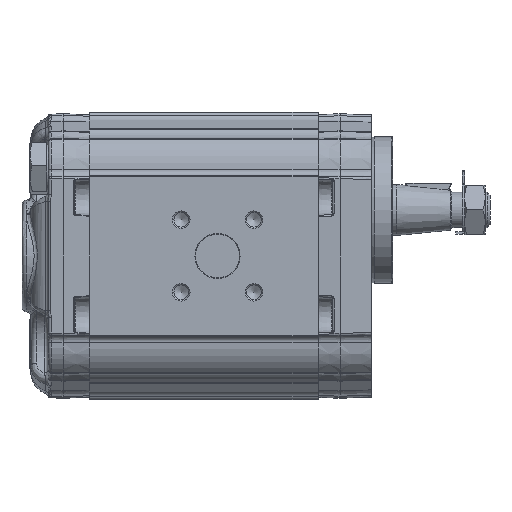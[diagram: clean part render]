
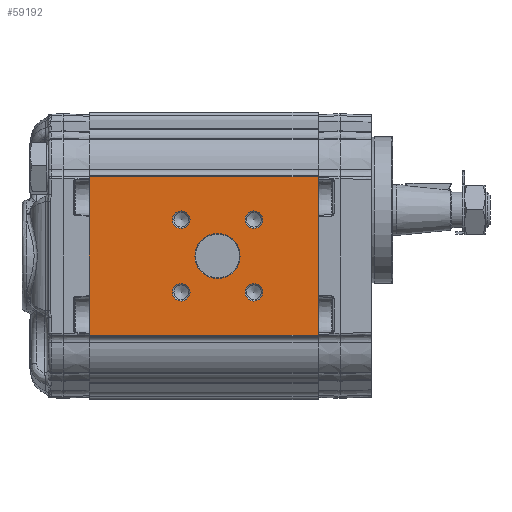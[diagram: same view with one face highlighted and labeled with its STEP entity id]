
A CAD part, left-side view. The second image highlights one B-rep face of the part: STEP entity #59192.
In plain terms, the highlighted planar face has unit normal (-1, 0, 0) as drawn and (1, 0, 0) by its records, which use the part's own axes.
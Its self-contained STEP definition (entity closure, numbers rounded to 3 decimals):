
#3905=PLANE('',#62928);
#5323=CIRCLE('',#62929,7.7);
#5324=CIRCLE('',#62930,3.);
#5325=CIRCLE('',#62931,3.);
#5326=CIRCLE('',#62932,3.);
#5327=CIRCLE('',#62933,3.);
#11632=ORIENTED_EDGE('',*,*,#21325,.T.);
#11633=ORIENTED_EDGE('',*,*,#21326,.T.);
#11634=ORIENTED_EDGE('',*,*,#21327,.T.);
#11635=ORIENTED_EDGE('',*,*,#21328,.T.);
#11636=ORIENTED_EDGE('',*,*,#21329,.T.);
#11637=ORIENTED_EDGE('',*,*,#21304,.F.);
#11638=ORIENTED_EDGE('',*,*,#21330,.F.);
#11639=ORIENTED_EDGE('',*,*,#21234,.T.);
#11640=ORIENTED_EDGE('',*,*,#21331,.T.);
#21234=EDGE_CURVE('',#26417,#26416,#29502,.T.);
#21304=EDGE_CURVE('',#26484,#26485,#29514,.T.);
#21325=EDGE_CURVE('',#26489,#26489,#5323,.F.);
#21326=EDGE_CURVE('',#26490,#26490,#5324,.F.);
#21327=EDGE_CURVE('',#26491,#26491,#5325,.F.);
#21328=EDGE_CURVE('',#26492,#26492,#5326,.F.);
#21329=EDGE_CURVE('',#26493,#26493,#5327,.F.);
#21330=EDGE_CURVE('',#26417,#26484,#29531,.T.);
#21331=EDGE_CURVE('',#26416,#26485,#29532,.T.);
#26416=VERTEX_POINT('',#90801);
#26417=VERTEX_POINT('',#90803);
#26484=VERTEX_POINT('',#90940);
#26485=VERTEX_POINT('',#90942);
#26489=VERTEX_POINT('',#90976);
#26490=VERTEX_POINT('',#90978);
#26491=VERTEX_POINT('',#90980);
#26492=VERTEX_POINT('',#90982);
#26493=VERTEX_POINT('',#90984);
#29502=LINE('',#90802,#31648);
#29514=LINE('',#90941,#31660);
#29531=LINE('',#90985,#31677);
#29532=LINE('',#90986,#31678);
#31648=VECTOR('',#70022,1000.);
#31660=VECTOR('',#70152,1000.);
#31677=VECTOR('',#70205,1000.);
#31678=VECTOR('',#70206,1000.);
#34175=EDGE_LOOP('',(#11632));
#34176=EDGE_LOOP('',(#11633));
#34177=EDGE_LOOP('',(#11634));
#34178=EDGE_LOOP('',(#11635));
#34179=EDGE_LOOP('',(#11636));
#34180=EDGE_LOOP('',(#11637,#11638,#11639,#11640));
#37098=FACE_BOUND('',#34175,.T.);
#37099=FACE_BOUND('',#34176,.T.);
#37100=FACE_BOUND('',#34177,.T.);
#37101=FACE_BOUND('',#34178,.T.);
#37102=FACE_BOUND('',#34179,.T.);
#37103=FACE_BOUND('',#34180,.T.);
#59192=ADVANCED_FACE('',(#37098,#37099,#37100,#37101,#37102,#37103),#3905,
 .T.);
#62928=AXIS2_PLACEMENT_3D('',#90974,#70193,#70194);
#62929=AXIS2_PLACEMENT_3D('',#90975,#70195,#70196);
#62930=AXIS2_PLACEMENT_3D('',#90977,#70197,#70198);
#62931=AXIS2_PLACEMENT_3D('',#90979,#70199,#70200);
#62932=AXIS2_PLACEMENT_3D('',#90981,#70201,#70202);
#62933=AXIS2_PLACEMENT_3D('',#90983,#70203,#70204);
#70022=DIRECTION('',(0.,0.,1.));
#70152=DIRECTION('',(0.,0.,1.));
#70193=DIRECTION('',(1.,0.,0.));
#70194=DIRECTION('',(0.,0.,-1.));
#70195=DIRECTION('',(1.,0.,0.));
#70196=DIRECTION('',(0.,0.,-1.));
#70197=DIRECTION('',(1.,0.,0.));
#70198=DIRECTION('',(0.,0.,-1.));
#70199=DIRECTION('',(1.,0.,0.));
#70200=DIRECTION('',(0.,0.,-1.));
#70201=DIRECTION('',(1.,0.,0.));
#70202=DIRECTION('',(0.,0.,-1.));
#70203=DIRECTION('',(1.,0.,0.));
#70204=DIRECTION('',(0.,0.,-1.));
#70205=DIRECTION('',(0.,-1.,0.));
#70206=DIRECTION('',(0.,-1.,0.));
#90801=CARTESIAN_POINT('',(43.,78.,27.048));
#90802=CARTESIAN_POINT('',(43.,78.,27.048));
#90803=CARTESIAN_POINT('',(43.,78.,-27.048));
#90940=CARTESIAN_POINT('',(43.,0.,-27.048));
#90941=CARTESIAN_POINT('',(43.,0.,27.048));
#90942=CARTESIAN_POINT('',(43.,0.,27.048));
#90974=CARTESIAN_POINT('',(43.,78.,27.048));
#90975=CARTESIAN_POINT('',(43.,34.3,0.));
#90976=CARTESIAN_POINT('',(43.,34.3,-7.7));
#90977=CARTESIAN_POINT('',(43.,46.674,-12.374));
#90978=CARTESIAN_POINT('',(43.,46.674,-15.374));
#90979=CARTESIAN_POINT('',(43.,46.674,12.374));
#90980=CARTESIAN_POINT('',(43.,46.674,9.374));
#90981=CARTESIAN_POINT('',(43.,21.926,12.374));
#90982=CARTESIAN_POINT('',(43.,21.926,9.374));
#90983=CARTESIAN_POINT('',(43.,21.926,-12.374));
#90984=CARTESIAN_POINT('',(43.,21.926,-15.374));
#90985=CARTESIAN_POINT('',(43.,78.,-27.048));
#90986=CARTESIAN_POINT('',(43.,78.,27.048));
